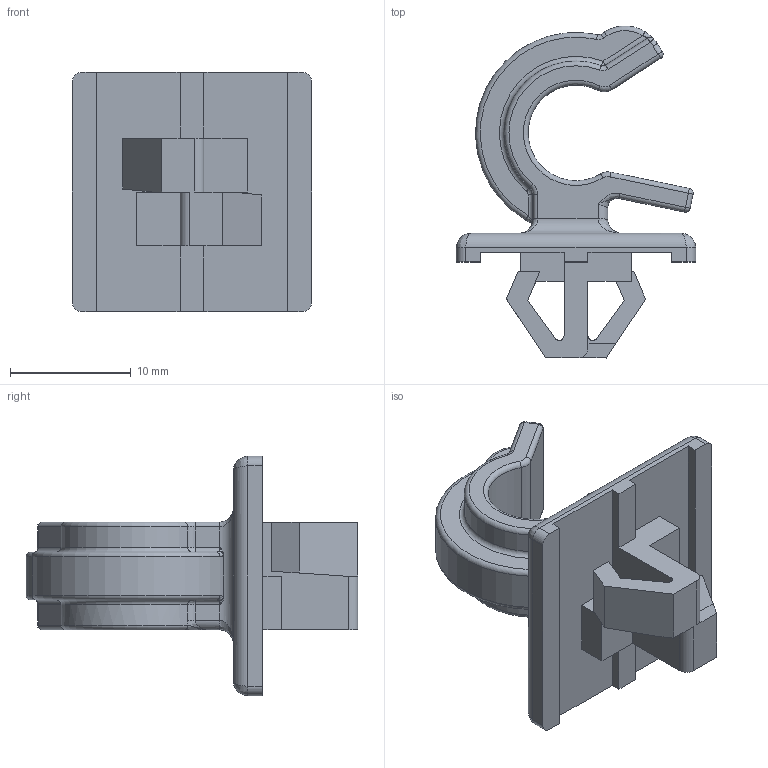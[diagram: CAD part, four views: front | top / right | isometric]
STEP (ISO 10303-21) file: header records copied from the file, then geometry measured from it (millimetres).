
FILE_DESCRIPTION(/* description */ (''),/* implementation_level */ '2;1');
FILE_NAME(/* name */ 'C:/Users/Dean/Desktop/Projects/Car Parts/2007 Hyundai Accent/2007 Hyundai Accent Hood Prop Retainer.step',/* time_stamp */ '2020-11-20T18:44:53-08:00',/* author */ (''),/* organization */ (''),/* preprocessor_version */ 'ST-DEVELOPER v18.1',/* originating_system */ 'Autodesk Translation Framework v9.3.0.1241',/* authorisation */ '');
FILE_SCHEMA (('AUTOMOTIVE_DESIGN { 1 0 10303 214 3 1 1 }'));
Length unit declared in the file: inch
Products named in the file (1): 2007 Hyundai Accent Hood Prop Retainer
Bounding box: 19.84 x 27.52 x 19.84 mm (x, y, z)
Volume: 1992.3 mm3; surface area: 2179.4 mm2
Topology: 1 solids, 1 shells, 166 faces, 401 edges, 227 vertices
Faces by surface type: cylinder 56, plane 55, torus 23, bspline 22, sphere 10
Entity records: 5308 total; most frequent: CARTESIAN_POINT 1499, DIRECTION 810, ORIENTED_EDGE 780, EDGE_CURVE 390, AXIS2_PLACEMENT_3D 301, VERTEX_POINT 227, LINE 208, VECTOR 208
